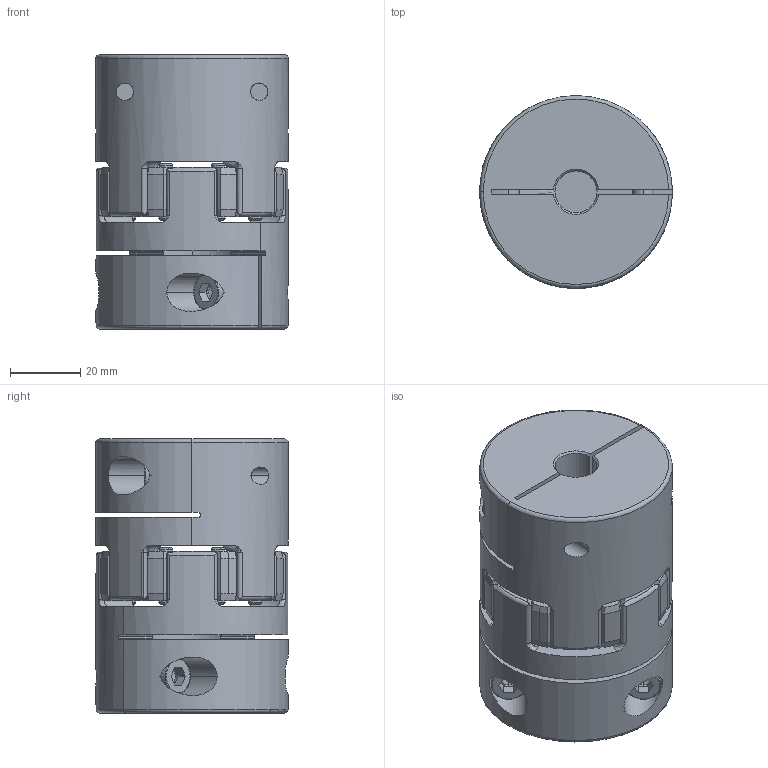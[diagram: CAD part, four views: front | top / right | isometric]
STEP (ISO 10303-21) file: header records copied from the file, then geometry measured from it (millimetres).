
FILE_DESCRIPTION (( 'STEP AP203' ), '1' );
FILE_NAME ('SJC-55C-12X28_203.STEP', '2013-02-20T01:34:34', ( '' ), ( '' ), 'SwSTEP 2.0', 'SolidWorks 2012', '' );
FILE_SCHEMA (( 'CONFIG_CONTROL_DESIGN' ));
Length unit declared in the file: millimetre
Products named in the file (1): SJC-55C-12X28_203
Bounding box: 55 x 55 x 78.3 mm (x, y, z)
Volume: 137207.2 mm3; surface area: 42918.5 mm2
Topology: 1 solids, 1 shells, 550 faces, 1436 edges, 868 vertices
Faces by surface type: cylinder 217, cone 115, plane 110, torus 108
Entity records: 18341 total; most frequent: CARTESIAN_POINT 4636, DIRECTION 3052, ORIENTED_EDGE 2840, EDGE_CURVE 1420, AXIS2_PLACEMENT_3D 1300, VERTEX_POINT 868, CIRCLE 749, EDGE_LOOP 586
